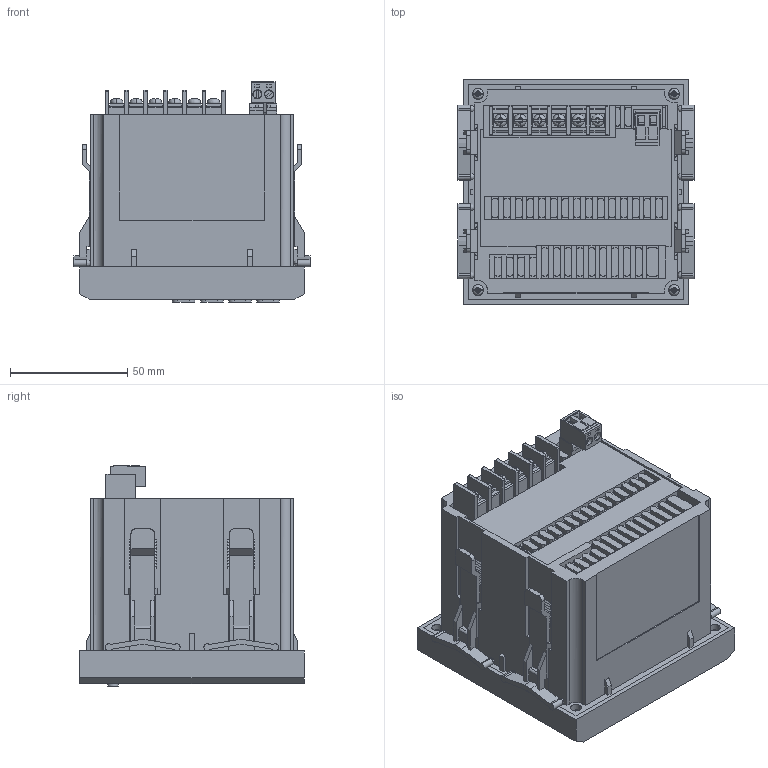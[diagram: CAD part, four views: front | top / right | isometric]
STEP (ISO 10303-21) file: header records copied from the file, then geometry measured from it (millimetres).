
FILE_DESCRIPTION (( 'STEP AP203' ), '1' );
FILE_NAME ('AMD-993 ASTER.STEP', '2019-12-02T21:29:22', ( '' ), ( '' ), 'SwSTEP 2.0', 'SolidWorks 2017', '' );
FILE_SCHEMA (( 'CONFIG_CONTROL_DESIGN' ));
Length unit declared in the file: millimetre
Products named in the file (1): AMD-993 ASTER
Bounding box: 100.8 x 96 x 94 mm (x, y, z)
Volume: 543183.8 mm3; surface area: 84256.7 mm2
Topology: 1 solids, 17 shells, 1851 faces, 5277 edges, 3448 vertices
Faces by surface type: plane 1370, cylinder 332, bspline 117, torus 28, cone 4
Entity records: 72373 total; most frequent: CARTESIAN_POINT 27149, ORIENTED_EDGE 10514, DIRECTION 7442, EDGE_CURVE 5257, LINE 3676, VECTOR 3676, VERTEX_POINT 3448, EDGE_LOOP 2005
